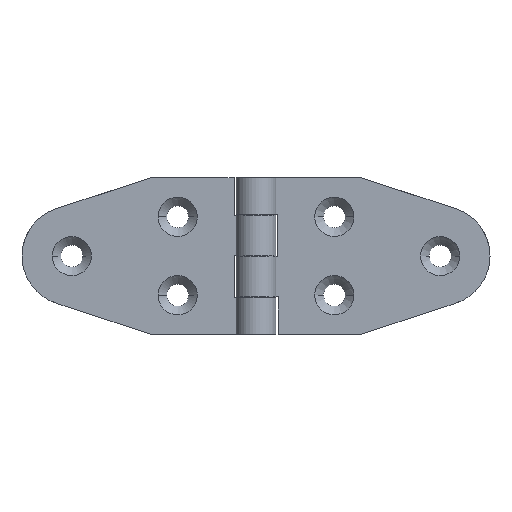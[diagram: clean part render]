
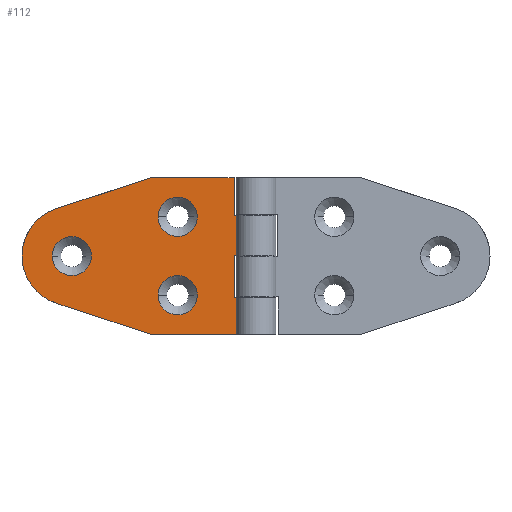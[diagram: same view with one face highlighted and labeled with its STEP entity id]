
A CAD part, top view. The second image highlights one B-rep face of the part: STEP entity #112.
In plain terms, the highlighted planar face has unit normal (0, 0, 1).
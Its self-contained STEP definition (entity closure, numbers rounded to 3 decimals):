
#14=FACE_BOUND('',#240,.T.);
#15=FACE_BOUND('',#241,.T.);
#16=FACE_BOUND('',#242,.T.);
#28=B_SPLINE_CURVE_WITH_KNOTS('',1,(#1655,#1656),.UNSPECIFIED.,.F.,.F.,
(2,2),(33.,59.7),.UNSPECIFIED.);
#29=B_SPLINE_CURVE_WITH_KNOTS('',1,(#1657,#1658),.UNSPECIFIED.,.F.,.F.,
(2,2),(20.1,30.4),.UNSPECIFIED.);
#30=B_SPLINE_CURVE_WITH_KNOTS('',1,(#1659,#1660),.UNSPECIFIED.,.F.,.F.,
(2,2),(33.,54.1),.UNSPECIFIED.);
#38=B_SPLINE_CURVE_WITH_KNOTS('',1,(#1750,#1751),.UNSPECIFIED.,.F.,.F.,
(2,2),(-30.7,0.),.UNSPECIFIED.);
#39=B_SPLINE_CURVE_WITH_KNOTS('',1,(#1752,#1753),.UNSPECIFIED.,.F.,.F.,
(2,2),(-36.3,-30.7),.UNSPECIFIED.);
#40=B_SPLINE_CURVE_WITH_KNOTS('',1,(#1754,#1755),.UNSPECIFIED.,.F.,.F.,
(2,2),(-62.4,-56.8),.UNSPECIFIED.);
#41=B_SPLINE_CURVE_WITH_KNOTS('',1,(#1756,#1757),.UNSPECIFIED.,.F.,.F.,
(2,2),(-73.1,-62.4),.UNSPECIFIED.);
#42=B_SPLINE_CURVE_WITH_KNOTS('',1,(#1758,#1759),.UNSPECIFIED.,.F.,.F.,
(2,2),(-59.7,-54.1),.UNSPECIFIED.);
#47=B_SPLINE_CURVE_WITH_KNOTS('',1,(#1777,#1778),.UNSPECIFIED.,.F.,.F.,
(2,2),(0.,9.4),.UNSPECIFIED.);
#112=ADVANCED_FACE('',(#174,#14,#15,#16),#1027,.T.);
#174=FACE_OUTER_BOUND('',#239,.T.);
#239=EDGE_LOOP('',(#337,#338,#339,#340,#341,#342,#343,#344,#345,#346,#347));
#240=EDGE_LOOP('',(#348,#349));
#241=EDGE_LOOP('',(#350,#351));
#242=EDGE_LOOP('',(#352,#353));
#337=ORIENTED_EDGE('',*,*,#661,.T.);
#338=ORIENTED_EDGE('',*,*,#660,.T.);
#339=ORIENTED_EDGE('',*,*,#629,.F.);
#340=ORIENTED_EDGE('',*,*,#640,.F.);
#341=ORIENTED_EDGE('',*,*,#639,.F.);
#342=ORIENTED_EDGE('',*,*,#627,.T.);
#343=ORIENTED_EDGE('',*,*,#672,.T.);
#344=ORIENTED_EDGE('',*,*,#664,.T.);
#345=ORIENTED_EDGE('',*,*,#663,.T.);
#346=ORIENTED_EDGE('',*,*,#662,.T.);
#347=ORIENTED_EDGE('',*,*,#628,.T.);
#348=ORIENTED_EDGE('',*,*,#647,.T.);
#349=ORIENTED_EDGE('',*,*,#686,.T.);
#350=ORIENTED_EDGE('',*,*,#652,.T.);
#351=ORIENTED_EDGE('',*,*,#691,.T.);
#352=ORIENTED_EDGE('',*,*,#657,.T.);
#353=ORIENTED_EDGE('',*,*,#696,.T.);
#627=EDGE_CURVE('',#937,#929,#28,.T.);
#628=EDGE_CURVE('',#958,#956,#29,.T.);
#629=EDGE_CURVE('',#936,#954,#30,.T.);
#639=EDGE_CURVE('',#937,#935,#776,.T.);
#640=EDGE_CURVE('',#935,#936,#777,.T.);
#647=EDGE_CURVE('',#940,#969,#820,.T.);
#652=EDGE_CURVE('',#943,#972,#823,.T.);
#657=EDGE_CURVE('',#946,#975,#826,.T.);
#660=EDGE_CURVE('',#955,#954,#38,.T.);
#661=EDGE_CURVE('',#956,#955,#39,.T.);
#662=EDGE_CURVE('',#957,#958,#40,.T.);
#663=EDGE_CURVE('',#959,#957,#41,.T.);
#664=EDGE_CURVE('',#960,#959,#42,.T.);
#672=EDGE_CURVE('',#929,#960,#47,.T.);
#686=EDGE_CURVE('',#969,#940,#835,.T.);
#691=EDGE_CURVE('',#972,#943,#838,.T.);
#696=EDGE_CURVE('',#975,#946,#841,.T.);
#776=(
BOUNDED_CURVE()
B_SPLINE_CURVE(2,(#1684,#1685,#1686,#1687,#1688),.UNSPECIFIED.,.F.,.F.)
B_SPLINE_CURVE_WITH_KNOTS((3,2,3),(0.,25.511,41.446),
 .UNSPECIFIED.)
CURVE()
GEOMETRIC_REPRESENTATION_ITEM()
RATIONAL_B_SPLINE_CURVE((1.,1.,1.,0.81,1.))
REPRESENTATION_ITEM('')
);
#777=(
BOUNDED_CURVE()
B_SPLINE_CURVE(2,(#1689,#1690,#1691,#1692,#1693),.UNSPECIFIED.,.F.,.F.)
B_SPLINE_CURVE_WITH_KNOTS((3,2,3),(-79.796,-63.861,
-38.35),.UNSPECIFIED.)
CURVE()
GEOMETRIC_REPRESENTATION_ITEM()
RATIONAL_B_SPLINE_CURVE((1.,0.81,1.,1.,1.))
REPRESENTATION_ITEM('')
);
#820=TRIMMED_CURVE($,#876,(#1714),(#1715),.T.,.CARTESIAN.);
#823=TRIMMED_CURVE($,#879,(#1729),(#1730),.T.,.CARTESIAN.);
#826=TRIMMED_CURVE($,#882,(#1744),(#1745),.T.,.CARTESIAN.);
#835=TRIMMED_CURVE($,#891,(#1813),(#1814),.T.,.CARTESIAN.);
#838=TRIMMED_CURVE($,#894,(#1828),(#1829),.T.,.CARTESIAN.);
#841=TRIMMED_CURVE($,#897,(#1843),(#1844),.T.,.CARTESIAN.);
#876=CIRCLE('',#1185,5.);
#879=CIRCLE('',#1188,5.);
#882=CIRCLE('',#1191,5.);
#891=CIRCLE('',#1200,5.);
#894=CIRCLE('',#1203,5.);
#897=CIRCLE('',#1206,5.);
#929=VERTEX_POINT('',#1598);
#935=VERTEX_POINT('',#1604);
#936=VERTEX_POINT('',#1605);
#937=VERTEX_POINT('',#1606);
#940=VERTEX_POINT('',#1609);
#943=VERTEX_POINT('',#1612);
#946=VERTEX_POINT('',#1615);
#954=VERTEX_POINT('',#1623);
#955=VERTEX_POINT('',#1624);
#956=VERTEX_POINT('',#1625);
#957=VERTEX_POINT('',#1626);
#958=VERTEX_POINT('',#1627);
#959=VERTEX_POINT('',#1628);
#960=VERTEX_POINT('',#1629);
#969=VERTEX_POINT('',#1638);
#972=VERTEX_POINT('',#1641);
#975=VERTEX_POINT('',#1644);
#1027=PLANE('',#1164);
#1164=AXIS2_PLACEMENT_3D('',#1440,#1270,$);
#1185=AXIS2_PLACEMENT_3D($,#1713,#1295,#1296);
#1188=AXIS2_PLACEMENT_3D($,#1728,#1301,#1302);
#1191=AXIS2_PLACEMENT_3D($,#1743,#1307,#1308);
#1200=AXIS2_PLACEMENT_3D($,#1812,#1325,#1326);
#1203=AXIS2_PLACEMENT_3D($,#1827,#1331,#1332);
#1206=AXIS2_PLACEMENT_3D($,#1842,#1337,#1338);
#1270=DIRECTION('',(0.,0.,1.));
#1295=DIRECTION('',(0.,0.,-1.));
#1296=DIRECTION('',(1.,0.,0.));
#1301=DIRECTION('',(0.,0.,-1.));
#1302=DIRECTION('',(1.,0.,0.));
#1307=DIRECTION('',(0.,0.,-1.));
#1308=DIRECTION('',(1.,0.,0.));
#1325=DIRECTION('',(0.,0.,-1.));
#1326=DIRECTION('',(-1.,0.,0.));
#1331=DIRECTION('',(0.,0.,-1.));
#1332=DIRECTION('',(-1.,0.,0.));
#1337=DIRECTION('',(0.,0.,-1.));
#1338=DIRECTION('',(-1.,0.,0.));
#1440=CARTESIAN_POINT('',(-58.667,-37.111,5.974));
#1598=CARTESIAN_POINT('',(1.033,-37.111,5.974));
#1604=CARTESIAN_POINT('',(-58.667,-17.111,5.974));
#1605=CARTESIAN_POINT('',(-25.667,2.889,5.974));
#1606=CARTESIAN_POINT('',(-25.667,-37.111,5.974));
#1609=CARTESIAN_POINT('',(-40.967,-17.111,5.974));
#1612=CARTESIAN_POINT('',(-13.967,-7.111,5.974));
#1615=CARTESIAN_POINT('',(-13.967,-27.111,5.974));
#1623=CARTESIAN_POINT('',(-4.567,2.889,5.974));
#1624=CARTESIAN_POINT('',(-4.567,-6.711,5.974));
#1625=CARTESIAN_POINT('',(1.033,-6.711,5.974));
#1626=CARTESIAN_POINT('',(-4.567,-17.011,5.974));
#1627=CARTESIAN_POINT('',(1.033,-17.011,5.974));
#1628=CARTESIAN_POINT('',(-4.567,-27.711,5.974));
#1629=CARTESIAN_POINT('',(1.033,-27.711,5.974));
#1638=CARTESIAN_POINT('',(-50.967,-17.111,5.974));
#1641=CARTESIAN_POINT('',(-23.967,-7.111,5.974));
#1644=CARTESIAN_POINT('',(-23.967,-27.111,5.974));
#1655=CARTESIAN_POINT('',(-25.667,-37.111,5.974));
#1656=CARTESIAN_POINT('',(1.033,-37.111,5.974));
#1657=CARTESIAN_POINT('',(1.033,-17.011,5.974));
#1658=CARTESIAN_POINT('',(1.033,-6.711,5.974));
#1659=CARTESIAN_POINT('',(-25.667,2.889,5.974));
#1660=CARTESIAN_POINT('',(-4.567,2.889,5.974));
#1684=CARTESIAN_POINT('',(-25.667,-37.111,5.974));
#1685=CARTESIAN_POINT('',(-37.79,-33.147,5.974));
#1686=CARTESIAN_POINT('',(-49.914,-29.182,5.974));
#1687=CARTESIAN_POINT('',(-58.667,-26.32,5.974));
#1688=CARTESIAN_POINT('',(-58.667,-17.111,5.974));
#1689=CARTESIAN_POINT('',(-58.667,-17.111,5.974));
#1690=CARTESIAN_POINT('',(-58.667,-7.903,5.974));
#1691=CARTESIAN_POINT('',(-49.914,-5.04,5.974));
#1692=CARTESIAN_POINT('',(-37.79,-1.076,5.974));
#1693=CARTESIAN_POINT('',(-25.667,2.889,5.974));
#1713=CARTESIAN_POINT('',(-45.967,-17.111,5.974));
#1714=CARTESIAN_POINT('',(-40.967,-17.111,5.974));
#1715=CARTESIAN_POINT('',(-50.967,-17.111,5.974));
#1728=CARTESIAN_POINT('',(-18.967,-7.111,5.974));
#1729=CARTESIAN_POINT('',(-13.967,-7.111,5.974));
#1730=CARTESIAN_POINT('',(-23.967,-7.111,5.974));
#1743=CARTESIAN_POINT('',(-18.967,-27.111,5.974));
#1744=CARTESIAN_POINT('',(-13.967,-27.111,5.974));
#1745=CARTESIAN_POINT('',(-23.967,-27.111,5.974));
#1750=CARTESIAN_POINT('',(-4.567,-6.711,5.974));
#1751=CARTESIAN_POINT('',(-4.567,2.889,5.974));
#1752=CARTESIAN_POINT('',(1.033,-6.711,5.974));
#1753=CARTESIAN_POINT('',(-4.567,-6.711,5.974));
#1754=CARTESIAN_POINT('',(-4.567,-17.011,5.974));
#1755=CARTESIAN_POINT('',(1.033,-17.011,5.974));
#1756=CARTESIAN_POINT('',(-4.567,-27.711,5.974));
#1757=CARTESIAN_POINT('',(-4.567,-17.011,5.974));
#1758=CARTESIAN_POINT('',(1.033,-27.711,5.974));
#1759=CARTESIAN_POINT('',(-4.567,-27.711,5.974));
#1777=CARTESIAN_POINT('',(1.033,-37.111,5.974));
#1778=CARTESIAN_POINT('',(1.033,-27.711,5.974));
#1812=CARTESIAN_POINT('',(-45.967,-17.111,5.974));
#1813=CARTESIAN_POINT('',(-50.967,-17.111,5.974));
#1814=CARTESIAN_POINT('',(-40.967,-17.111,5.974));
#1827=CARTESIAN_POINT('',(-18.967,-7.111,5.974));
#1828=CARTESIAN_POINT('',(-23.967,-7.111,5.974));
#1829=CARTESIAN_POINT('',(-13.967,-7.111,5.974));
#1842=CARTESIAN_POINT('',(-18.967,-27.111,5.974));
#1843=CARTESIAN_POINT('',(-23.967,-27.111,5.974));
#1844=CARTESIAN_POINT('',(-13.967,-27.111,5.974));
